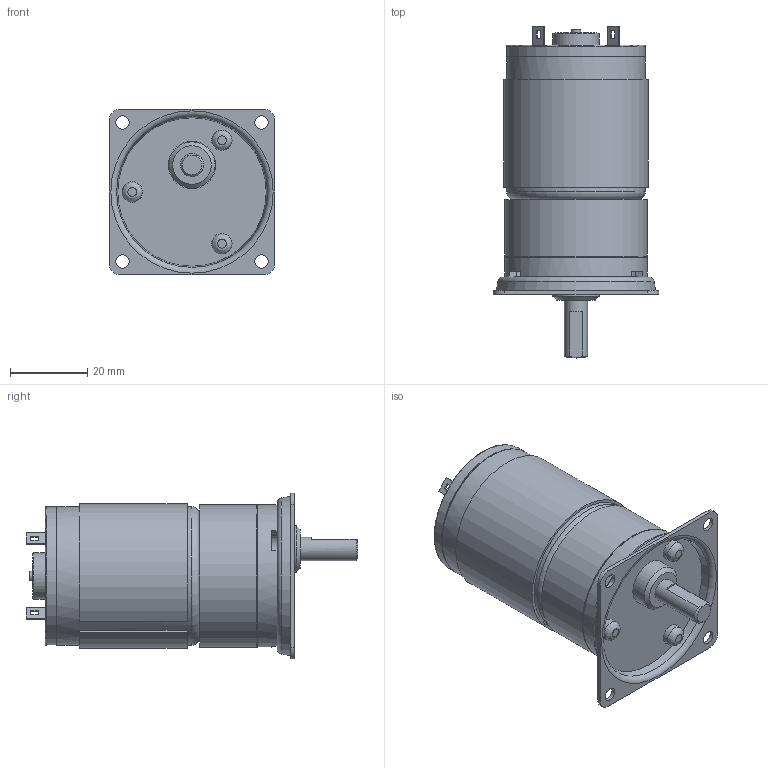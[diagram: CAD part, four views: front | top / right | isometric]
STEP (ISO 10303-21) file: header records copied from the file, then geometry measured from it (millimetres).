
FILE_DESCRIPTION((''),'2;1');
FILE_NAME('C:\Documents and Settings\SSEGAWA\デスクトップ\TP-3640B-PKS-2.STP','2013-07-18T17:08:26',('SSEGAWA'),(''),'Autodesk Inventor 2010','Autodesk Inventor 2010','');
FILE_SCHEMA(('CONFIG_CONTROL_DESIGN'));
Length unit declared in the file: millimetre
Products named in the file (1): tp_3640bce_pks_2_Shrinkwrap_1
Bounding box: 43 x 86.1 x 43 mm (x, y, z)
Volume: 67911.4 mm3; surface area: 14425.1 mm2
Topology: 10 solids, 10 shells, 136 faces, 302 edges, 200 vertices
Faces by surface type: plane 73, bspline 27, cylinder 26, cone 5, torus 5
Full cylindrical faces by diameter (mm): 2.5 x1, 4 x1, 4.5 x1, 5.3 x3, 6 x1, 12 x2, 12.2 x1, 35.6 x1, 36 x2, 36.6 x1, 37 x2
Entity records: 3883 total; most frequent: CARTESIAN_POINT 1024, DIRECTION 543, ORIENTED_EDGE 452, EDGE_CURVE 226, EDGE_LOOP 211, AXIS2_PLACEMENT_3D 209, VERTEX_POINT 173, STYLED_ITEM 146
